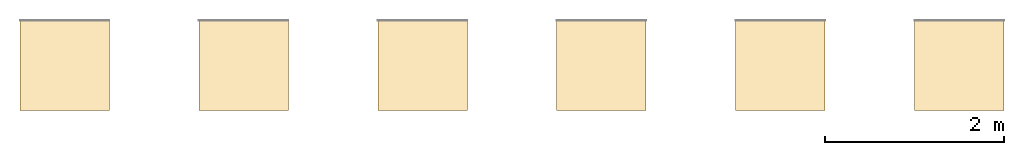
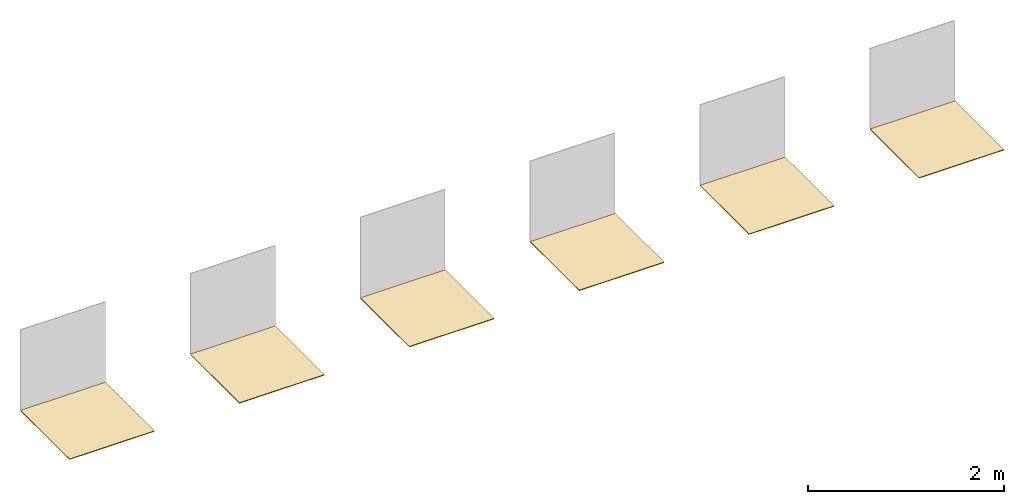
# One storey, part 2 of 2: 6 coverings.
"""IFC2X3 building model written with IfcOpenShell, lengths in millimetres."""

from ifc_helpers import new_model, entity, si_unit, converted_unit, derived_unit, direction, frame, frame_2d, origin, place, context, subcontext, project, spatial, rectangle, extrude, material, layer, layer_set, layer_usage, type_object, element, save


model = new_model("IFC2X3")

# Units and contexts
model_context = context("Model", 3, precision=0.01, world=origin(), true_north=direction((6.12303176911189e-17, 1.0)))
body_context = subcontext(model_context, "Body", "Model", "MODEL_VIEW")
ifc_project = project(units=[si_unit("LENGTHUNIT", "METRE", prefix="MILLI"), si_unit("AREAUNIT", "SQUARE_METRE"), si_unit("VOLUMEUNIT", "CUBIC_METRE"), converted_unit("PLANEANGLEUNIT", "DEGREE", entity("IfcRatioMeasure", 0.0174532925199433), si_unit("PLANEANGLEUNIT", "RADIAN"), dimensions=[0, 0, 0, 0, 0, 0, 0]), si_unit("MASSUNIT", "GRAM", prefix="KILO"), derived_unit("MASSDENSITYUNIT", [(si_unit("MASSUNIT", "GRAM", prefix="KILO"), 1), (si_unit("LENGTHUNIT", "METRE"), -3)]), derived_unit("MOMENTOFINERTIAUNIT", [(si_unit("LENGTHUNIT", "METRE"), 4)]), si_unit("TIMEUNIT", "SECOND"), si_unit("FREQUENCYUNIT", "HERTZ"), si_unit("THERMODYNAMICTEMPERATUREUNIT", "DEGREE_CELSIUS"), derived_unit("THERMALTRANSMITTANCEUNIT", [(si_unit("MASSUNIT", "GRAM", prefix="KILO"), 1), (si_unit("THERMODYNAMICTEMPERATUREUNIT", "KELVIN"), -1), (si_unit("TIMEUNIT", "SECOND"), -3)]), derived_unit("VOLUMETRICFLOWRATEUNIT", [(si_unit("LENGTHUNIT", "METRE"), 3), (si_unit("TIMEUNIT", "SECOND"), -1)]), si_unit("ELECTRICCURRENTUNIT", "AMPERE"), si_unit("ELECTRICVOLTAGEUNIT", "VOLT"), si_unit("POWERUNIT", "WATT"), si_unit("FORCEUNIT", "NEWTON", prefix="KILO"), si_unit("ILLUMINANCEUNIT", "LUX"), si_unit("LUMINOUSFLUXUNIT", "LUMEN"), si_unit("LUMINOUSINTENSITYUNIT", "CANDELA"), derived_unit("USERDEFINED", [(si_unit("MASSUNIT", "GRAM", prefix="KILO"), -1), (si_unit("LENGTHUNIT", "METRE"), -2), (si_unit("TIMEUNIT", "SECOND"), 3), (si_unit("LUMINOUSFLUXUNIT", "LUMEN"), 1)]), derived_unit("LINEARVELOCITYUNIT", [(si_unit("LENGTHUNIT", "METRE"), 1), (si_unit("TIMEUNIT", "SECOND"), -1)]), si_unit("PRESSUREUNIT", "PASCAL"), derived_unit("USERDEFINED", [(si_unit("LENGTHUNIT", "METRE"), -2), (si_unit("MASSUNIT", "GRAM", prefix="KILO"), 1), (si_unit("TIMEUNIT", "SECOND"), -2)]), derived_unit("LINEARFORCEUNIT", [(si_unit("MASSUNIT", "GRAM", prefix="KILO"), 1), (si_unit("LENGTHUNIT", "METRE"), 1), (si_unit("TIMEUNIT", "SECOND"), -2), (si_unit("LENGTHUNIT", "METRE"), -1)]), derived_unit("PLANARFORCEUNIT", [(si_unit("MASSUNIT", "GRAM", prefix="KILO"), 1), (si_unit("LENGTHUNIT", "METRE"), 1), (si_unit("TIMEUNIT", "SECOND"), -2), (si_unit("LENGTHUNIT", "METRE"), -2)])], contexts=[model_context])

# Site, building, storey
site_placement = place(None, origin())
site = spatial("IfcSite", under=ifc_project, at=site_placement, Name="Default", CompositionType="ELEMENT")
building_placement = place(site_placement, origin())
building = spatial("IfcBuilding", under=site, at=building_placement, CompositionType="ELEMENT")
storey_placement = place(building_placement, origin())
storey = spatial("IfcBuildingStorey", under=building, at=storey_placement, Name="Level 1", CompositionType="ELEMENT", Elevation=0.0)

# Coverings
ifc_material_1 = material(Name="REVIGRÉS-OMNISTONE-MOLTI-30X30-MATTRECT-BONE")
ifc_layer_1 = layer(ifc_material_1, 9.8)
ifc_layer_set_1 = layer_set([ifc_layer_1], Name="Floor:REVIGRÉS-OMNISTONE-MOLTI-30X30-MATTRECT-BONE")
ifc_layer_usage_1 = layer_usage(ifc_layer_set_1, "AXIS3", "POSITIVE", 0.0)
covering_type_1 = type_object("IfcCoveringType", Name="Floor:REVIGRÉS-OMNISTONE-MOLTI-30X30-MATTRECT-BONE", PredefinedType="CLADDING", material=ifc_layer_set_1)
covering_1_placement = place(storey_placement, origin())
element("IfcCovering", 1, at=covering_1_placement, inside=storey, type_object=covering_type_1, material=ifc_layer_usage_1, Name="Floor:REVIGRÉS-OMNISTONE-MOLTI-30X30-MATTRECT-BONE", ObjectType="Floor:REVIGRÉS-OMNISTONE-MOLTI-30X30-MATTRECT-BONE", PredefinedType="CLADDING", context=body_context, shape_type="SweptSolid", body=[
    extrude(rectangle(XDim=1000.0, YDim=999.999999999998, at=frame_2d((-1.08002495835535e-12, 0.0), x_axis=(1.0, 0.0))), frame((77708.2238843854, 18311.2034685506, 0.0), z_axis=(0.0, 0.0, -1.0), x_axis=(0.0, 1.0, 0.0)), (0.0, 0.0, 1.0), 9.8),
])
ifc_material_2 = material(Name="REVIGRÉS-OMNISTONE-MOLTI-30X30-MATTRECT-ICE")
ifc_layer_2 = layer(ifc_material_2, 9.8)
ifc_layer_set_2 = layer_set([ifc_layer_2], Name="Floor:REVIGRÉS-OMNISTONE-MOLTI-30X30-MATTRECT-ICE")
ifc_layer_usage_2 = layer_usage(ifc_layer_set_2, "AXIS3", "POSITIVE", 0.0)
covering_type_2 = type_object("IfcCoveringType", Name="Floor:REVIGRÉS-OMNISTONE-MOLTI-30X30-MATTRECT-ICE", PredefinedType="CLADDING", material=ifc_layer_set_2)
covering_2_placement = place(storey_placement, origin())
element("IfcCovering", 2, at=covering_2_placement, inside=storey, type_object=covering_type_2, material=ifc_layer_usage_2, Name="Floor:REVIGRÉS-OMNISTONE-MOLTI-30X30-MATTRECT-ICE", ObjectType="Floor:REVIGRÉS-OMNISTONE-MOLTI-30X30-MATTRECT-ICE", PredefinedType="CLADDING", context=body_context, shape_type="SweptSolid", body=[
    extrude(rectangle(XDim=1000.0, YDim=999.999999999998, at=frame_2d((1.08002495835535e-12, -8.66862137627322e-12), x_axis=(1.0, 0.0))), frame((79708.2238843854, 18311.2034685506, 0.0), z_axis=(0.0, 0.0, -1.0), x_axis=(0.0, 1.0, 0.0)), (0.0, 0.0, 1.0), 9.8),
])
ifc_material_3 = material(Name="REVIGRÉS-OMNISTONE-MOLTI-30X30-MATTRECT-IRON")
ifc_layer_3 = layer(ifc_material_3, 9.8)
ifc_layer_set_3 = layer_set([ifc_layer_3], Name="Floor:REVIGRÉS-OMNISTONE-MOLTI-30X30-MATTRECT-IRON")
ifc_layer_usage_3 = layer_usage(ifc_layer_set_3, "AXIS3", "POSITIVE", 0.0)
covering_type_3 = type_object("IfcCoveringType", Name="Floor:REVIGRÉS-OMNISTONE-MOLTI-30X30-MATTRECT-IRON", PredefinedType="CLADDING", material=ifc_layer_set_3)
covering_3_placement = place(storey_placement, origin())
element("IfcCovering", 3, at=covering_3_placement, inside=storey, type_object=covering_type_3, material=ifc_layer_usage_3, Name="Floor:REVIGRÉS-OMNISTONE-MOLTI-30X30-MATTRECT-IRON", ObjectType="Floor:REVIGRÉS-OMNISTONE-MOLTI-30X30-MATTRECT-IRON", PredefinedType="CLADDING", context=body_context, shape_type="SweptSolid", body=[
    extrude(rectangle(XDim=1000.0, YDim=999.999999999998, at=frame_2d((-1.08002495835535e-12, -8.66862137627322e-12), x_axis=(1.0, 0.0))), frame((81708.2238843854, 18311.2034685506, 0.0), z_axis=(0.0, 0.0, -1.0), x_axis=(0.0, 1.0, 0.0)), (0.0, 0.0, 1.0), 9.8),
])
ifc_material_4 = material(Name="REVIGRÉS-OMNISTONE-MOLTI-30X30-MATTRECT-JET")
ifc_layer_4 = layer(ifc_material_4, 9.8)
ifc_layer_set_4 = layer_set([ifc_layer_4], Name="Floor:REVIGRÉS-OMNISTONE-MOLTI-30X30-MATTRECT-JET")
ifc_layer_usage_4 = layer_usage(ifc_layer_set_4, "AXIS3", "POSITIVE", 0.0)
covering_type_4 = type_object("IfcCoveringType", Name="Floor:REVIGRÉS-OMNISTONE-MOLTI-30X30-MATTRECT-JET", PredefinedType="CLADDING", material=ifc_layer_set_4)
covering_4_placement = place(storey_placement, origin())
element("IfcCovering", 4, at=covering_4_placement, inside=storey, type_object=covering_type_4, material=ifc_layer_usage_4, Name="Floor:REVIGRÉS-OMNISTONE-MOLTI-30X30-MATTRECT-JET", ObjectType="Floor:REVIGRÉS-OMNISTONE-MOLTI-30X30-MATTRECT-JET", PredefinedType="CLADDING", context=body_context, shape_type="SweptSolid", body=[
    extrude(rectangle(XDim=1000.0, YDim=999.999999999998, at=frame_2d((1.08002495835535e-12, -8.66862137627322e-12), x_axis=(1.0, 0.0))), frame((83708.2238843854, 18311.2034685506, 0.0), z_axis=(0.0, 0.0, -1.0), x_axis=(0.0, 1.0, 0.0)), (0.0, 0.0, 1.0), 9.8),
])
ifc_material_5 = material(Name="REVIGRÉS-OMNISTONE-MOLTI-30X30-MATTRECT-PLATINA")
ifc_layer_5 = layer(ifc_material_5, 9.8)
ifc_layer_set_5 = layer_set([ifc_layer_5], Name="Floor:REVIGRÉS-OMNISTONE-MOLTI-30X30-MATTRECT-PLATINA")
ifc_layer_usage_5 = layer_usage(ifc_layer_set_5, "AXIS3", "POSITIVE", 0.0)
covering_type_5 = type_object("IfcCoveringType", Name="Floor:REVIGRÉS-OMNISTONE-MOLTI-30X30-MATTRECT-PLATINA", PredefinedType="CLADDING", material=ifc_layer_set_5)
covering_5_placement = place(storey_placement, origin())
element("IfcCovering", 5, at=covering_5_placement, inside=storey, type_object=covering_type_5, material=ifc_layer_usage_5, Name="Floor:REVIGRÉS-OMNISTONE-MOLTI-30X30-MATTRECT-PLATINA", ObjectType="Floor:REVIGRÉS-OMNISTONE-MOLTI-30X30-MATTRECT-PLATINA", PredefinedType="CLADDING", context=body_context, shape_type="SweptSolid", body=[
    extrude(rectangle(XDim=1000.0, YDim=999.999999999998, at=frame_2d((-1.08002495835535e-12, -8.66862137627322e-12), x_axis=(1.0, 0.0))), frame((85708.2238843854, 18311.2034685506, 0.0), z_axis=(0.0, 0.0, -1.0), x_axis=(0.0, 1.0, 0.0)), (0.0, 0.0, 1.0), 9.8),
])
ifc_material_6 = material(Name="REVIGRÉS-OMNISTONE-MOLTI-30X30-MATTRECT-ROPE")
ifc_layer_6 = layer(ifc_material_6, 9.8)
ifc_layer_set_6 = layer_set([ifc_layer_6], Name="Floor:REVIGRÉS-OMNISTONE-MOLTI-30X30-MATTRECT-ROPE")
ifc_layer_usage_6 = layer_usage(ifc_layer_set_6, "AXIS3", "POSITIVE", 0.0)
covering_type_6 = type_object("IfcCoveringType", Name="Floor:REVIGRÉS-OMNISTONE-MOLTI-30X30-MATTRECT-ROPE", PredefinedType="CLADDING", material=ifc_layer_set_6)
covering_6_placement = place(storey_placement, origin())
element("IfcCovering", 6, at=covering_6_placement, inside=storey, type_object=covering_type_6, material=ifc_layer_usage_6, Name="Floor:REVIGRÉS-OMNISTONE-MOLTI-30X30-MATTRECT-ROPE", ObjectType="Floor:REVIGRÉS-OMNISTONE-MOLTI-30X30-MATTRECT-ROPE", PredefinedType="CLADDING", context=body_context, shape_type="SweptSolid", body=[
    extrude(rectangle(XDim=1000.0, YDim=999.999999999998, at=frame_2d((1.08002495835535e-12, -8.66862137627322e-12), x_axis=(1.0, 0.0))), frame((87708.2238843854, 18311.2034685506, 0.0), z_axis=(0.0, 0.0, -1.0), x_axis=(0.0, 1.0, 0.0)), (0.0, 0.0, 1.0), 9.8),
])

save(model, "model.ifc")
